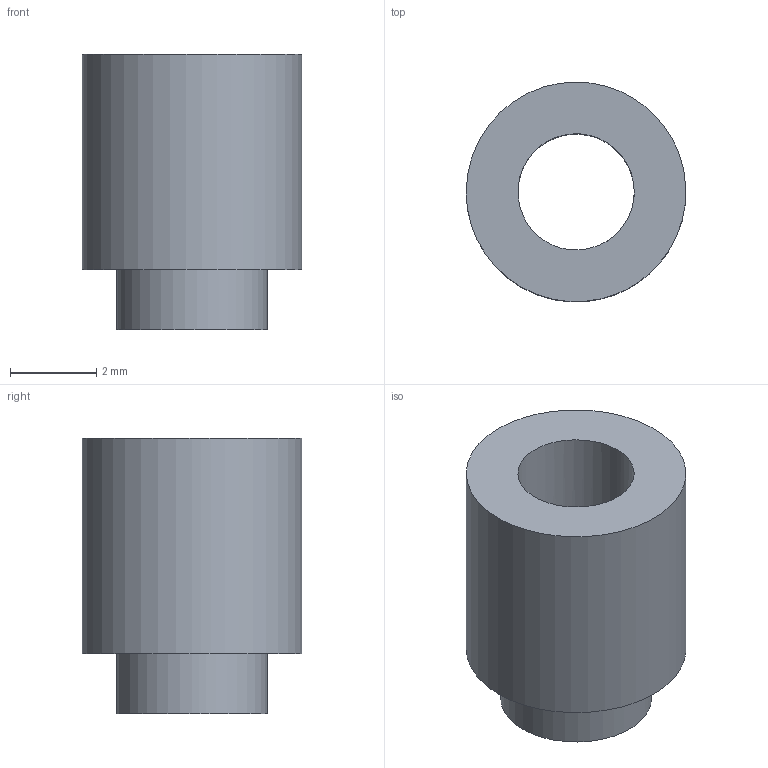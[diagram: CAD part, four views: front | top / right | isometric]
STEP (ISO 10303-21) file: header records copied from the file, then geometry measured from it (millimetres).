
FILE_DESCRIPTION(('FreeCAD Model'),'2;1');
FILE_NAME('Open CASCADE Shape Model','2026-03-20T17:23:15',('Author'),( ''),'Open CASCADE STEP processor 7.8','FreeCAD','Unknown');
FILE_SCHEMA(('AP242_MANAGED_MODEL_BASED_3D_ENGINEERING_MIM_LF. {1 0 10303 442 1 1 4 }'));
Length unit declared in the file: millimetre
Products named in the file (1): 1_transformed
Bounding box: 5.1 x 5.1 x 6.4 mm (x, y, z)
Volume: 79.7 mm3; surface area: 179.6 mm2
Topology: 1 solids, 1 shells, 6 faces, 10 edges, 7 vertices
Faces by surface type: bspline 6
Entity records: 209 total; most frequent: CARTESIAN_POINT 113, ORIENTED_EDGE 20, EDGE_CURVE 10, FACE_BOUND 9, EDGE_LOOP 9, VERTEX_POINT 7, ADVANCED_FACE 6, B_SPLINE_SURFACE_WITH_KNOTS 3
